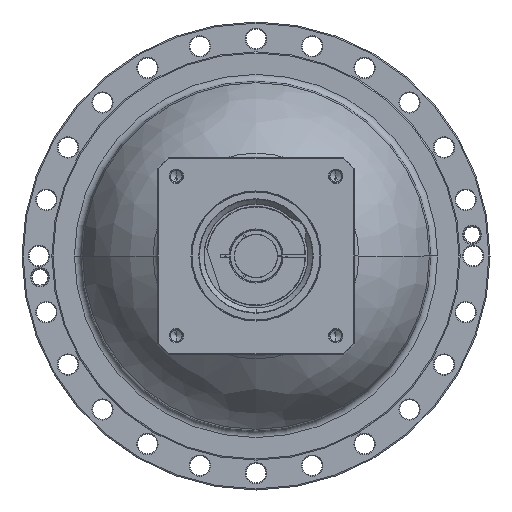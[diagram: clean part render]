
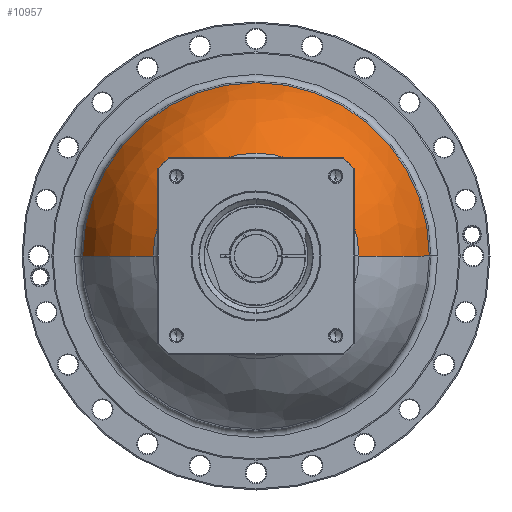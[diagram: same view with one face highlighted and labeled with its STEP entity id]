
A CAD part, left-side view. The second image highlights one B-rep face of the part: STEP entity #10957.
In plain terms, the highlighted free-form (B-spline) face has degree [3, 3] with [7, 4] control points.
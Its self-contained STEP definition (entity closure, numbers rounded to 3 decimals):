
#10465=CARTESIAN_POINT('',(-12.551,0.,0.));
#10466=DIRECTION('',(-1.,0.,0.));
#10467=DIRECTION('',(0.,-1.,0.));
#10468=AXIS2_PLACEMENT_3D('',#10465,#10466,#10467);
#10470=CARTESIAN_POINT('',(-92.085,0.,0.));
#10471=DIRECTION('',(1.,0.,0.));
#10472=DIRECTION('',(0.,1.,0.));
#10473=AXIS2_PLACEMENT_3D('',#10470,#10471,#10472);
#10480=CARTESIAN_POINT('',(-139.573,11.429,0.));
#10481=DIRECTION('',(0.,0.,-1.));
#10482=DIRECTION('',(0.317,0.949,0.));
#10483=AXIS2_PLACEMENT_3D('',#10480,#10481,#10482);
#10490=CARTESIAN_POINT('',(-139.573,-11.429,0.));
#10491=DIRECTION('',(0.,0.,1.));
#10492=DIRECTION('',(0.317,-0.949,0.));
#10493=AXIS2_PLACEMENT_3D('',#10490,#10491,#10492);
#10727=CARTESIAN_POINT('',(-92.085,153.714,
0.));
#10728=CARTESIAN_POINT('',(-92.085,-153.714,0.));
#10729=VERTEX_POINT('',#10727);
#10730=VERTEX_POINT('',#10728);
#10739=CARTESIAN_POINT('',(-12.551,91.213,
0.));
#10740=CARTESIAN_POINT('',(-12.551,-91.213,
0.));
#10741=VERTEX_POINT('',#10739);
#10742=VERTEX_POINT('',#10740);
#10919=CARTESIAN_POINT('',(-94.047,154.049,
-9.692));
#10920=CARTESIAN_POINT('',(-59.219,142.978,
-8.995));
#10921=CARTESIAN_POINT('',(-30.479,120.437,
-7.577));
#10922=CARTESIAN_POINT('',(-11.465,89.282,
-5.617));
#10923=CARTESIAN_POINT('',(-94.047,160.014,
85.11));
#10924=CARTESIAN_POINT('',(-59.219,148.513,
78.993));
#10925=CARTESIAN_POINT('',(-30.479,125.1,
66.54));
#10926=CARTESIAN_POINT('',(-11.465,92.738,
49.327));
#10927=CARTESIAN_POINT('',(-94.047,94.989,
154.354));
#10928=CARTESIAN_POINT('',(-59.219,88.162,
143.26));
#10929=CARTESIAN_POINT('',(-30.479,74.263,
120.675));
#10930=CARTESIAN_POINT('',(-11.465,55.052,
89.458));
#10931=CARTESIAN_POINT('',(-94.047,0.,
154.354));
#10932=CARTESIAN_POINT('',(-59.219,0.,
143.26));
#10933=CARTESIAN_POINT('',(-30.479,0.,120.675));
#10934=CARTESIAN_POINT('',(-11.465,0.,
89.458));
#10935=CARTESIAN_POINT('',(-94.047,-94.989,
154.354));
#10936=CARTESIAN_POINT('',(-59.219,-88.162,
143.26));
#10937=CARTESIAN_POINT('',(-30.479,-74.263,
120.675));
#10938=CARTESIAN_POINT('',(-11.465,-55.052,
89.458));
#10939=CARTESIAN_POINT('',(-94.047,-160.014,
85.11));
#10940=CARTESIAN_POINT('',(-59.219,-148.513,
78.993));
#10941=CARTESIAN_POINT('',(-30.479,-125.1,
66.54));
#10942=CARTESIAN_POINT('',(-11.465,-92.738,
49.327));
#10943=CARTESIAN_POINT('',(-94.047,-154.049,
-9.692));
#10944=CARTESIAN_POINT('',(-59.219,-142.978,
-8.995));
#10945=CARTESIAN_POINT('',(-30.479,-120.437,
-7.577));
#10946=CARTESIAN_POINT('',(-11.465,-89.282,
-5.617));
#10947=(BOUNDED_SURFACE()B_SPLINE_SURFACE(3,3,((#10919,#10920,#10921,#10922),(
#10923,#10924,#10925,#10926),(#10927,#10928,#10929,#10930),(#10931,#10932,
#10933,#10934),(#10935,#10936,#10937,#10938),(#10939,#10940,#10941,#10942),(
#10943,#10944,#10945,#10946)),.UNSPECIFIED.,.F.,.F.,.F.)B_SPLINE_SURFACE_WITH_KNOTS((4,3,4),(4,4),(0.,1.,2.),(0.,1.),.UNSPECIFIED.)GEOMETRIC_REPRESENTATION_ITEM()RATIONAL_B_SPLINE_SURFACE(((1.226,1.174,
1.174,1.226),(0.968,0.927,
0.927,0.968),(0.968,0.927,
0.927,0.968),(1.226,1.174,
1.174,1.226),(0.968,0.927,
0.927,0.968),(0.968,0.927,
0.927,0.968),(1.226,1.174,
1.174,1.226)))REPRESENTATION_ITEM('')SURFACE());
#10948=ORIENTED_EDGE('',*,*,#10913,.F.);
#10950=ORIENTED_EDGE('',*,*,#10949,.F.);
#10952=ORIENTED_EDGE('',*,*,#10951,.F.);
#10954=ORIENTED_EDGE('',*,*,#10953,.T.);
#10955=EDGE_LOOP('',(#10948,#10950,#10952,#10954));
#10956=FACE_OUTER_BOUND('',#10955,.F.);
#10957=ADVANCED_FACE('',(#10956),#10947,.T.);
#10469=CIRCLE('',#10468,91.213);
#10474=CIRCLE('',#10473,153.714);
#10484=CIRCLE('',#10483,150.);
#10494=CIRCLE('',#10493,150.);
#10913=EDGE_CURVE('',#10742,#10741,#10469,.T.);
#10949=EDGE_CURVE('',#10730,#10742,#10494,.T.);
#10951=EDGE_CURVE('',#10729,#10730,#10474,.T.);
#10953=EDGE_CURVE('',#10729,#10741,#10484,.T.);
